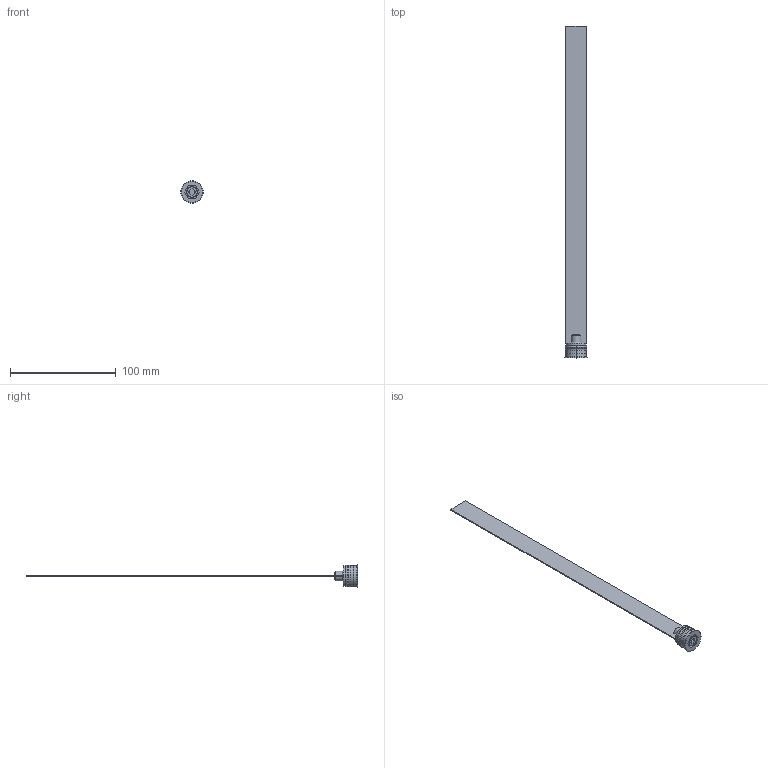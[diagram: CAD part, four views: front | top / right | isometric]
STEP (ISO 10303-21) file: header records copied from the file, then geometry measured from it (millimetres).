
FILE_DESCRIPTION (( 'STEP AP203' ), '1' );
FILE_NAME ('RL-20Fx300.STEP', '2015-12-02T15:12:31', ( 'Balzi' ), ( '' ), 'SwSTEP 2.0', 'SolidWorks 2015', '' );
FILE_SCHEMA (( 'CONFIG_CONTROL_DESIGN' ));
Length unit declared in the file: millimetre
Products named in the file (1): RL-20Fx300
Bounding box: 21.5 x 314 x 21.5 mm (x, y, z)
Volume: 10441.7 mm3; surface area: 14765.8 mm2
Topology: 1 solids, 1 shells, 75 faces, 177 edges, 109 vertices
Faces by surface type: plane 31, cone 19, cylinder 17, torus 8
Entity records: 2245 total; most frequent: CARTESIAN_POINT 412, DIRECTION 386, ORIENTED_EDGE 354, EDGE_CURVE 177, AXIS2_PLACEMENT_3D 147, VERTEX_POINT 109, LINE 92, VECTOR 92
